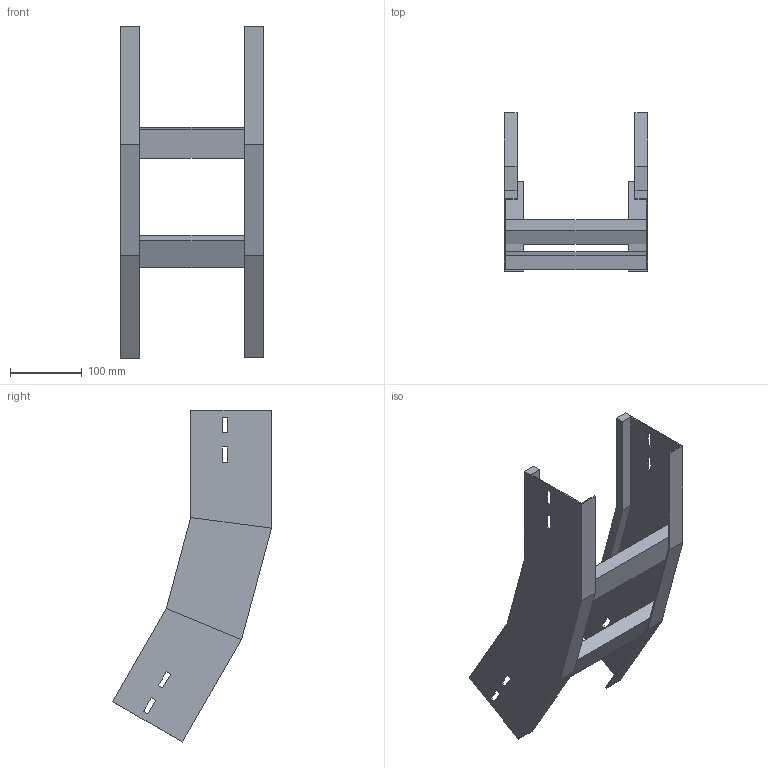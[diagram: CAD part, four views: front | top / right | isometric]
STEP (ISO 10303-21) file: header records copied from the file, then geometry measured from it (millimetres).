
FILE_DESCRIPTION (( 'STEP AP214' ), '1' );
FILE_NAME ('B2X32B5J200XX.step', '2025-03-20T10:00:50', ( '' ), ( '' ), 'SwSTEP 2.0', 'SolidWorks 2023', '' );
FILE_SCHEMA (( 'AUTOMOTIVE_DESIGN' ));
Length unit declared in the file: millimetre
Products named in the file (3): TRAVERSINO_200; B2X32B5J200XX; LONGH.SALITA_30°_H112.5_R500
Assembly tree (4 placements, depth 2):
  B2X32B5J200XX
    LONGH.SALITA_30°_H112.5_R500  x2
    TRAVERSINO_200  x2
Bounding box: 200 x 221.37 x 462.57 mm (x, y, z)
Volume: 737890.7 mm3; surface area: 338637.4 mm2
Topology: 4 solids, 4 shells, 96 faces, 232 edges, 144 vertices
Faces by surface type: plane 96
Entity records: 1472 total; most frequent: CARTESIAN_POINT 243, ORIENTED_EDGE 232, DIRECTION 226, EDGE_CURVE 116, LINE 116, VECTOR 116, VERTEX_POINT 72, EDGE_LOOP 56
